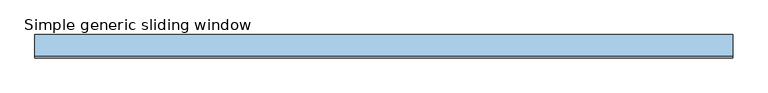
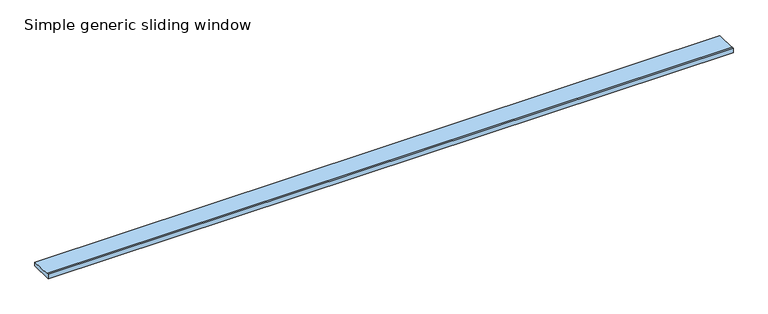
"""IFC4 building model written with IfcOpenShell, lengths in millimetres: window geometry, REN_TEM_WIN_MAIN_Slide : Simple generic sliding window."""

from ifc_helpers import new_model, si_unit, frame, origin, place, context, project, spatial, polyline, outline, extrude, source, transform, mapped, element, save


def simple_generic_sliding_window_e4a07dc5(model_context):
    return source(origin(), model_context, "Body", "SweptSolid", [
        extrude(outline(polyline([(-20.0, 800.0), (-20.0, 855.0), (0.0, 855.0), (0.0, 850.666962), (250.0, 841.9367696), (250.0, 800.0), (-20.0, 800.0)])), frame((-4000.0, 0.0, 0.0), z_axis=(1.0, 0.0, 0.0), x_axis=(0.0, 1.0, 0.0)), (0.0, 0.0, 1.0), 8000.0),
    ])


if __name__ == "__main__":
    model = new_model("IFC4")
    model_context = context("Model", 3, world=origin())
    ifc_project = project(units=[si_unit("LENGTHUNIT", "METRE", prefix="MILLI")], contexts=[model_context])
    site = spatial("IfcSite", under=ifc_project)
    building = spatial("IfcBuilding", under=site)
    placement = place(None, origin())
    simple_generic_sliding_window_shape = simple_generic_sliding_window_e4a07dc5(model_context)
    element("IfcWindow", 1, ObjectType="REN_TEM_WIN_MAIN_Slide : Simple generic sliding window", at=placement, inside=building, context=model_context, shape_type="MappedRepresentation", body=[
        mapped(simple_generic_sliding_window_shape, transform((0.0, 0.0, 0.0), x_axis=(1.0, 0.0, 0.0), y_axis=(0.0, 1.0, 0.0), z_axis=(0.0, 0.0, 1.0))),
    ])
    save(model, "model.ifc")
